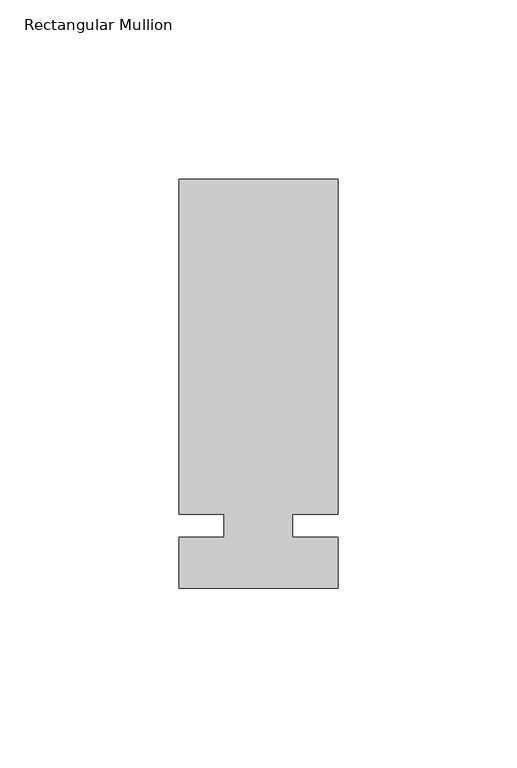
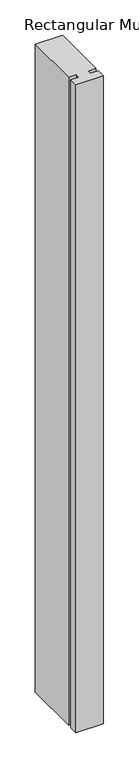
"""IFC4 building model written with IfcOpenShell, lengths in millimetres: member geometry, Rectangular Mullion : Kawneer-TRIFAB_VG_450_BACK_SB_Horizontal."""

from ifc_helpers import new_model, si_unit, frame, origin, place, context, project, spatial, polyline, outline, extrude, source, transform, mapped, element, save


def rectangular_mullion_7dc9a697(model_context):
    return source(origin(), model_context, "Body", "SweptSolid", [
        extrude(outline(polyline([(26.5594027, -17.4625), (-17.8905973, -17.4625), (-17.8905973, -3.2050658), (-5.1905973, -3.2050658), (-5.1905973, 3.1449342), (-17.8905973, 3.1449342), (-17.8905973, 96.8375), (26.5594027, 96.8375), (26.5594027, 3.1449342), (13.8576322, 3.1449342), (13.8576322, -3.2050658), (26.5594027, -3.2050658), (26.5594027, -17.4625)])), frame((0.0, 0.0, -1115.2344133), z_axis=(0.0, 0.0, 1.0), x_axis=(1.0, 0.0, 0.0)), (0.0, 0.0, 1.0), 1115.2344133),
    ])


if __name__ == "__main__":
    model = new_model("IFC4")
    model_context = context("Model", 3, world=origin())
    ifc_project = project(units=[si_unit("LENGTHUNIT", "METRE", prefix="MILLI")], contexts=[model_context])
    site = spatial("IfcSite", under=ifc_project)
    building = spatial("IfcBuilding", under=site)
    placement = place(None, origin())
    rectangular_mullion_shape = rectangular_mullion_7dc9a697(model_context)
    element("IfcMember", 1, ObjectType="Rectangular Mullion : Kawneer-TRIFAB_VG_450_BACK_SB_Horizontal", at=placement, inside=building, context=model_context, shape_type="MappedRepresentation", body=[
        mapped(rectangular_mullion_shape, transform((0.0, 0.0, 0.0), x_axis=(1.0, 0.0, 0.0), y_axis=(0.0, 1.0, 0.0), z_axis=(0.0, 0.0, 1.0))),
    ])
    save(model, "model.ifc")
